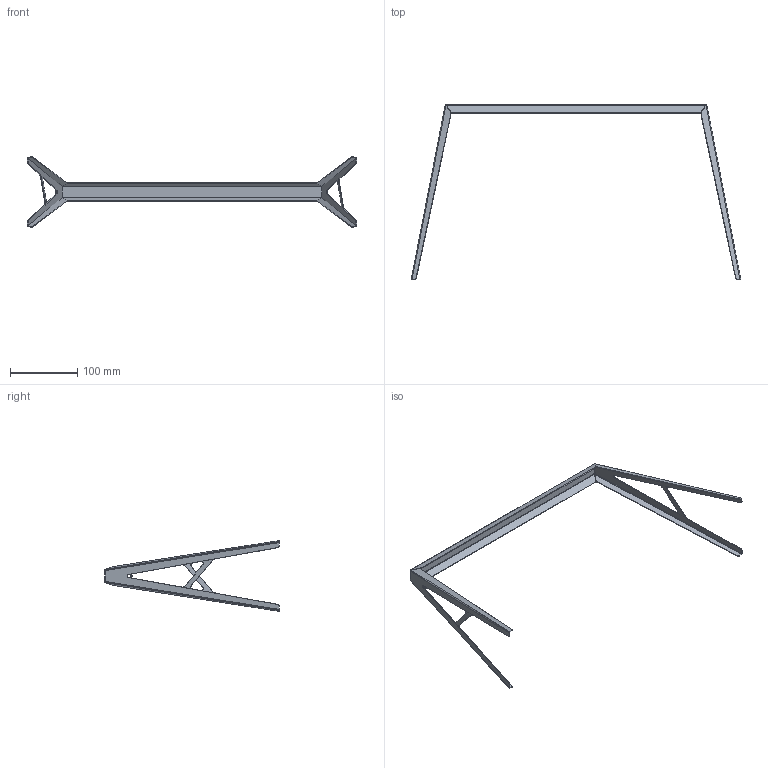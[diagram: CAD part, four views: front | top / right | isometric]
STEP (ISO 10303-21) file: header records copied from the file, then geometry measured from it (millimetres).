
FILE_DESCRIPTION (( 'STEP AP203' ), '1' );
FILE_NAME ('320_BASSA_T_L_3D.STEP', '2022-10-24T08:34:16', ( '' ), ( '' ), 'SwSTEP 2.0', 'SolidWorks 2022', '' );
FILE_SCHEMA (( 'CONFIG_CONTROL_DESIGN' ));
Length unit declared in the file: millimetre
Products named in the file (1): 320_BASSA_T_L_3D
Bounding box: 490.51 x 260.35 x 105.26 mm (x, y, z)
Volume: 44307.5 mm3; surface area: 77745.8 mm2
Topology: 1 solids, 1 shells, 144 faces, 368 edges, 224 vertices
Faces by surface type: cylinder 66, plane 50, bspline 28
Entity records: 4677 total; most frequent: CARTESIAN_POINT 1329, ORIENTED_EDGE 736, DIRECTION 602, EDGE_CURVE 368, VERTEX_POINT 224, AXIS2_PLACEMENT_3D 217, VECTOR 168, LINE 168
